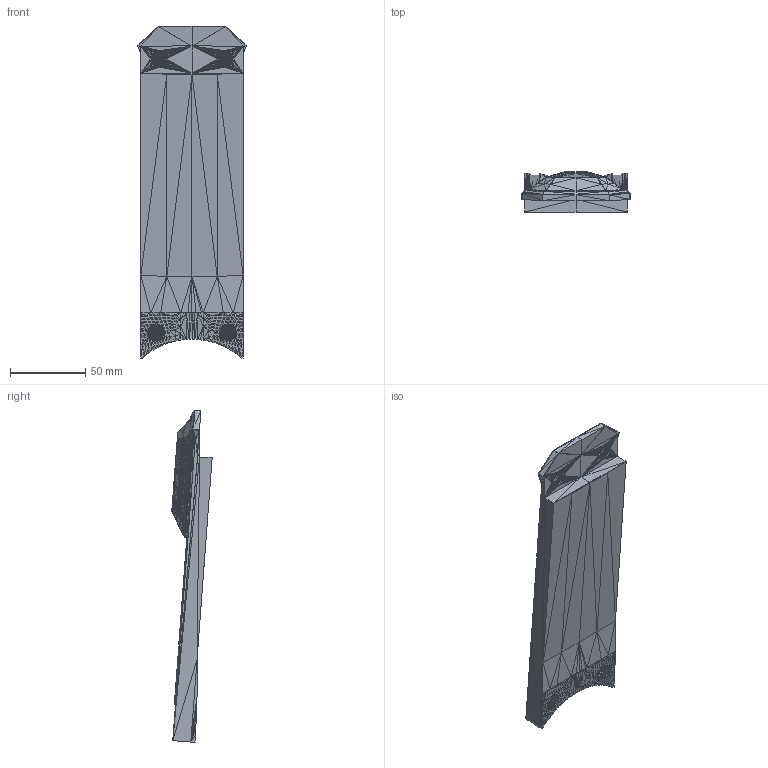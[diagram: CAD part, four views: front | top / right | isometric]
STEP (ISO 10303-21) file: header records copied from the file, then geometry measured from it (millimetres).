
FILE_DESCRIPTION((''),'2;1');
FILE_NAME('Light Bar', '2025-03-27T07:31:40', (''), (''), 'ImageToStl.com STEP Converter','', '');
FILE_SCHEMA(('AUTOMOTIVE_DESIGN_CC2'));
Length unit declared in the file: metre
Products named in the file (1): product0
Bounding box: 71.66 x 26.74 x 219.96 mm (x, y, z)
Surface area: 40981 mm2 (no closed solid volume)
Topology: 0 solids, 9592 shells, 9592 faces, 28776 edges, 4798 vertices
Faces by surface type: plane 9592
Entity records: 230247 total; most frequent: DIRECTION 47962, ORIENTED_EDGE 28776, EDGE_CURVE 28776, LINE 28776, VECTOR 28776, AXIS2_PLACEMENT_3D 9593, STYLED_ITEM 9593, FACE_SURFACE 9592
